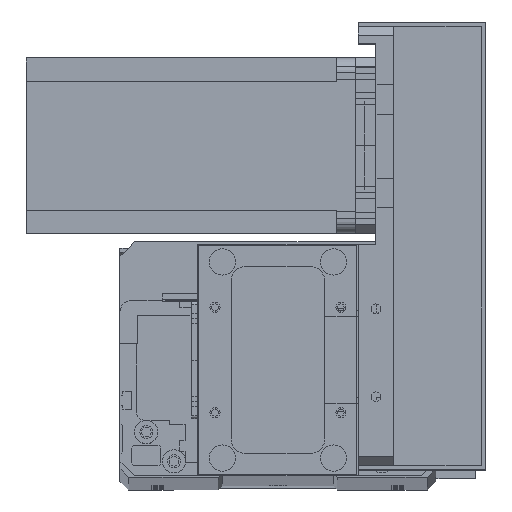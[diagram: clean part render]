
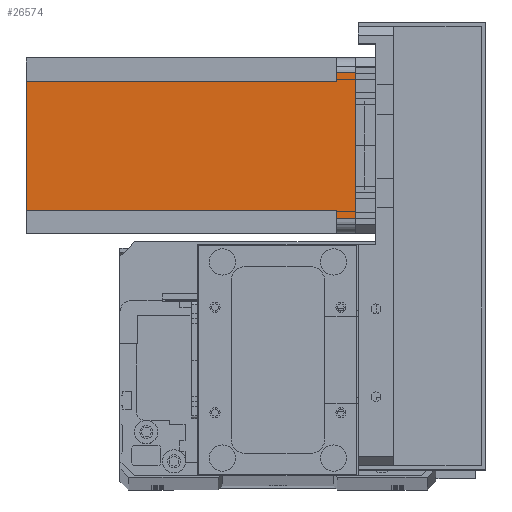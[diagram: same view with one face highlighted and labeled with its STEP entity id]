
A CAD part, top view. The second image highlights one B-rep face of the part: STEP entity #26574.
In plain terms, the highlighted planar face has unit normal (0, 0, 1) as drawn and (0, 1, 0) by its records, which use the part's own axes.
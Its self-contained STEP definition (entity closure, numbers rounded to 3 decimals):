
#386 = EDGE_CURVE ( 'NONE', #10362, #29924, #15542, .T. ) ;
#517 = VECTOR ( 'NONE', #9762, 1000. ) ;
#729 = CARTESIAN_POINT ( 'NONE',  ( 55., 60., -112.5 ) ) ;
#1554 = VECTOR ( 'NONE', #25423, 1000. ) ;
#1671 = CARTESIAN_POINT ( 'NONE',  ( 0., 60., 0. ) ) ;
#1836 = LINE ( 'NONE', #28061, #8829 ) ;
#1868 = DIRECTION ( 'NONE',  ( 0., 0., 1. ) ) ;
#2058 = ORIENTED_EDGE ( 'NONE', *, *, #15137, .T. ) ;
#2612 = VECTOR ( 'NONE', #33087, 1000. ) ;
#4195 = ORIENTED_EDGE ( 'NONE', *, *, #386, .F. ) ;
#4967 = DIRECTION ( 'NONE',  ( -1., 0., 0. ) ) ;
#5051 = ORIENTED_EDGE ( 'NONE', *, *, #17265, .T. ) ;
#5073 = VERTEX_POINT ( 'NONE', #19771 ) ;
#6409 = LINE ( 'NONE', #16007, #33435 ) ;
#6930 = CARTESIAN_POINT ( 'NONE',  ( 52., 60., -6.5 ) ) ;
#7624 = VERTEX_POINT ( 'NONE', #20035 ) ;
#7890 = CARTESIAN_POINT ( 'NONE',  ( 8., 60., -6.5 ) ) ;
#8241 = VERTEX_POINT ( 'NONE', #22951 ) ;
#8438 = DIRECTION ( 'NONE',  ( 0., 0., 1. ) ) ;
#8829 = VECTOR ( 'NONE', #20301, 1000. ) ;
#9762 = DIRECTION ( 'NONE',  ( 0., 0., -1. ) ) ;
#10362 = VERTEX_POINT ( 'NONE', #14030 ) ;
#11056 = EDGE_CURVE ( 'NONE', #8241, #22994, #23560, .T. ) ;
#11184 = VECTOR ( 'NONE', #8438, 1000. ) ;
#11433 = ORIENTED_EDGE ( 'NONE', *, *, #26063, .F. ) ;
#12416 = CARTESIAN_POINT ( 'NONE',  ( 8., 60., -112.5 ) ) ;
#13372 = DIRECTION ( 'NONE',  ( -1., 0., 0. ) ) ;
#13795 = DIRECTION ( 'NONE',  ( 0., 0., -1. ) ) ;
#14030 = CARTESIAN_POINT ( 'NONE',  ( 52., 60., -112.5 ) ) ;
#14174 = EDGE_CURVE ( 'NONE', #8241, #7624, #18346, .T. ) ;
#14775 = VERTEX_POINT ( 'NONE', #23801 ) ;
#14788 = EDGE_CURVE ( 'NONE', #33798, #5073, #6409, .T. ) ;
#15137 = EDGE_CURVE ( 'NONE', #10362, #14775, #25663, .T. ) ;
#15542 = LINE ( 'NONE', #25711, #1554 ) ;
#16007 = CARTESIAN_POINT ( 'NONE',  ( 8., 60., -6.5 ) ) ;
#16941 = ORIENTED_EDGE ( 'NONE', *, *, #17611, .F. ) ;
#17054 = ORIENTED_EDGE ( 'NONE', *, *, #11056, .F. ) ;
#17265 = EDGE_CURVE ( 'NONE', #5073, #22994, #25168, .T. ) ;
#17515 = VECTOR ( 'NONE', #13795, 1000. ) ;
#17609 = DIRECTION ( 'NONE',  ( 0., 1., 0. ) ) ;
#17611 = EDGE_CURVE ( 'NONE', #33798, #14775, #23080, .T. ) ;
#18009 = CARTESIAN_POINT ( 'NONE',  ( 5., 60., 0. ) ) ;
#18346 = LINE ( 'NONE', #729, #17515 ) ;
#19519 = VECTOR ( 'NONE', #4967, 1000. ) ;
#19771 = CARTESIAN_POINT ( 'NONE',  ( 5., 60., -6.5 ) ) ;
#20035 = CARTESIAN_POINT ( 'NONE',  ( 55., 60., -6.5 ) ) ;
#20301 = DIRECTION ( 'NONE',  ( 1., 0., 0. ) ) ;
#20712 = CARTESIAN_POINT ( 'NONE',  ( 0., 60., -112.5 ) ) ;
#22242 = EDGE_LOOP ( 'NONE', ( #17054, #31290, #11433, #4195, #2058, #16941, #33667, #5051 ) ) ;
#22850 = AXIS2_PLACEMENT_3D ( 'NONE', #28034, #17609, #1868 ) ;
#22951 = CARTESIAN_POINT ( 'NONE',  ( 55., 60., 0. ) ) ;
#22994 = VERTEX_POINT ( 'NONE', #18009 ) ;
#23080 = LINE ( 'NONE', #12416, #517 ) ;
#23560 = LINE ( 'NONE', #1671, #2612 ) ;
#23801 = CARTESIAN_POINT ( 'NONE',  ( 8., 60., -112.5 ) ) ;
#24152 = CARTESIAN_POINT ( 'NONE',  ( 5., 60., -112.5 ) ) ;
#25168 = LINE ( 'NONE', #24152, #11184 ) ;
#25423 = DIRECTION ( 'NONE',  ( 0., 0., 1. ) ) ;
#25663 = LINE ( 'NONE', #20712, #19519 ) ;
#25711 = CARTESIAN_POINT ( 'NONE',  ( 52., 60., -112.5 ) ) ;
#26063 = EDGE_CURVE ( 'NONE', #29924, #7624, #1836, .T. ) ;
#26574 = ADVANCED_FACE ( 'NONE', ( #32579 ), #33280, .T. ) ;
#28034 = CARTESIAN_POINT ( 'NONE',  ( 0., 60., -112.5 ) ) ;
#28061 = CARTESIAN_POINT ( 'NONE',  ( 52., 60., -6.5 ) ) ;
#29924 = VERTEX_POINT ( 'NONE', #6930 ) ;
#31290 = ORIENTED_EDGE ( 'NONE', *, *, #14174, .T. ) ;
#32579 = FACE_OUTER_BOUND ( 'NONE', #22242, .T. ) ;
#33087 = DIRECTION ( 'NONE',  ( -1., 0., 0. ) ) ;
#33280 = PLANE ( 'NONE',  #22850 ) ;
#33435 = VECTOR ( 'NONE', #13372, 1000. ) ;
#33667 = ORIENTED_EDGE ( 'NONE', *, *, #14788, .T. ) ;
#33798 = VERTEX_POINT ( 'NONE', #7890 ) ;
